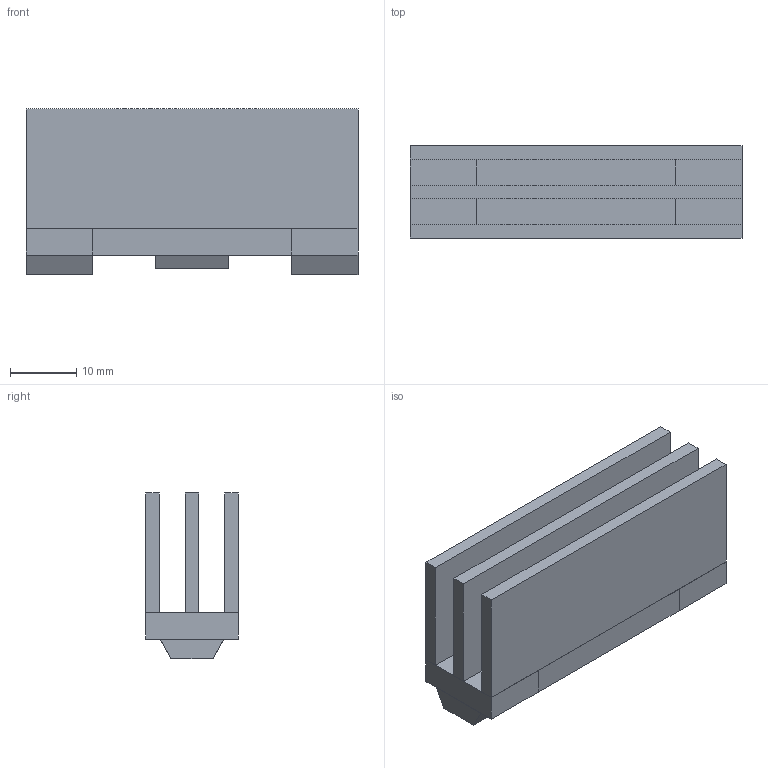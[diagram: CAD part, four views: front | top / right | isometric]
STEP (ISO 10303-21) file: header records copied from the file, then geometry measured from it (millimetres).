
FILE_DESCRIPTION(('ATS heatsink simplified reference geometry'),'2;1');
FILE_NAME('ATS-TI1OP-521-C1-R1.step','2026-10-19T20:00:00',(''),(''),'Codex','Codex','');
FILE_SCHEMA(('AUTOMOTIVE_DESIGN'));
Length unit declared in the file: millimetre
Products named in the file (1): ATS-TI1OP-521-C1-R1
Bounding box: 50 x 13.9 x 25 mm (x, y, z)
Volume: 8760.1 mm3; surface area: 9248.8 mm2
Topology: 9 solids, 9 shells, 248 faces, 684 edges, 456 vertices
Faces by surface type: plane 248
Entity records: 2306 total; most frequent: DIRECTION 496, CARTESIAN_POINT 456, POLY_LOOP 254, FACE_OUTER_BOUND 248, AXIS2_PLACEMENT_3D 248, PLANE 248, FACE_SURFACE 248, CLOSED_SHELL 9
